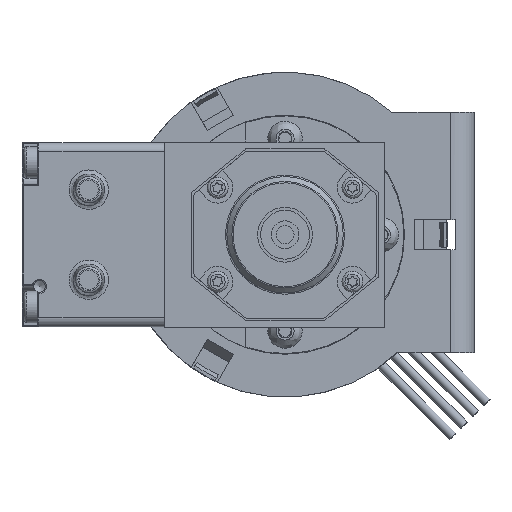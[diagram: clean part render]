
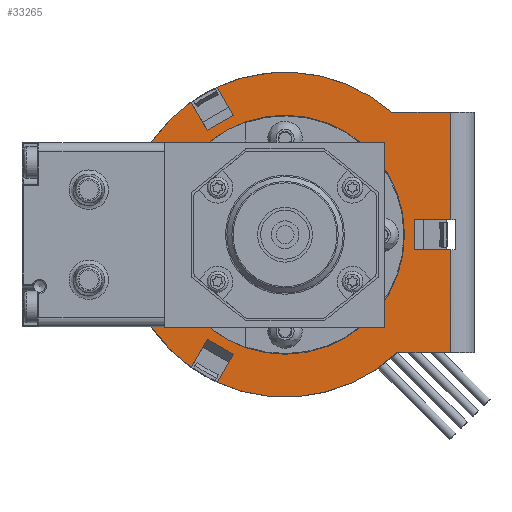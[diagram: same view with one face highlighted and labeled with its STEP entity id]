
A CAD part, left-side view. The second image highlights one B-rep face of the part: STEP entity #33265.
In plain terms, the highlighted planar face has unit normal (-1, 0, 0).
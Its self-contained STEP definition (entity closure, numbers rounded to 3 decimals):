
#427 = VERTEX_POINT ( 'NONE', #16229 ) ;
#474 = VECTOR ( 'NONE', #24153, 1000. ) ;
#526 = CARTESIAN_POINT ( 'NONE',  ( 8.5, 11.277, 9.182 ) ) ;
#1149 = DIRECTION ( 'NONE',  ( 0., -0.5, 0.866 ) ) ;
#1308 = CARTESIAN_POINT ( 'NONE',  ( 8.5, 15.607, 6.682 ) ) ;
#1335 = EDGE_CURVE ( 'NONE', #9406, #2469, #12406, .T. ) ;
#1656 = VERTEX_POINT ( 'NONE', #2628 ) ;
#1771 = DIRECTION ( 'NONE',  ( 0., -1., 0. ) ) ;
#1966 = VECTOR ( 'NONE', #2187, 1000. ) ;
#2187 = DIRECTION ( 'NONE',  ( 0., -0.866, 0.5 ) ) ;
#2469 = VERTEX_POINT ( 'NONE', #8167 ) ;
#2628 = CARTESIAN_POINT ( 'NONE',  ( 8.5, -27.5, -12.85 ) ) ;
#3134 = VECTOR ( 'NONE', #39065, 1000. ) ;
#3162 = CIRCLE ( 'NONE', #13836, 27. ) ;
#4207 = LINE ( 'NONE', #29564, #21664 ) ;
#4405 = VERTEX_POINT ( 'NONE', #18772 ) ;
#5282 = ORIENTED_EDGE ( 'NONE', *, *, #38427, .F. ) ;
#6025 = DIRECTION ( 'NONE',  ( 0., 1., 0. ) ) ;
#7100 = CARTESIAN_POINT ( 'NONE',  ( 8.5, 8.585, 4.52 ) ) ;
#7429 = CARTESIAN_POINT ( 'NONE',  ( 8.5, 0., -15.35 ) ) ;
#8082 = ORIENTED_EDGE ( 'NONE', *, *, #35931, .F. ) ;
#8167 = CARTESIAN_POINT ( 'NONE',  ( 8.5, 15.607, -37.382 ) ) ;
#8564 = VECTOR ( 'NONE', #13370, 1000. ) ;
#8674 = EDGE_CURVE ( 'NONE', #12868, #1656, #27506, .T. ) ;
#9195 = CARTESIAN_POINT ( 'NONE',  ( 8.5, 0., -17.85 ) ) ;
#9235 = VECTOR ( 'NONE', #33965, 1000. ) ;
#9406 = VERTEX_POINT ( 'NONE', #46567 ) ;
#10155 = ORIENTED_EDGE ( 'NONE', *, *, #35666, .F. ) ;
#10373 = LINE ( 'NONE', #30202, #9235 ) ;
#10758 = DIRECTION ( 'NONE',  ( 0., -0.5, -0.866 ) ) ;
#11101 = DIRECTION ( 'NONE',  ( 0., 1., 0. ) ) ;
#11787 = CIRCLE ( 'NONE', #34196, 19.85 ) ;
#12183 = VECTOR ( 'NONE', #1149, 1000. ) ;
#12406 = LINE ( 'NONE', #26555, #32320 ) ;
#12762 = VERTEX_POINT ( 'NONE', #47386 ) ;
#12868 = VERTEX_POINT ( 'NONE', #45093 ) ;
#13098 = PLANE ( 'NONE',  #27378 ) ;
#13370 = DIRECTION ( 'NONE',  ( 0., 0.866, 0.5 ) ) ;
#13551 = DIRECTION ( 'NONE',  ( 0., 1., 0. ) ) ;
#13836 = AXIS2_PLACEMENT_3D ( 'NONE', #41402, #18925, #45207 ) ;
#13867 = CIRCLE ( 'NONE', #30668, 27. ) ;
#14136 = EDGE_CURVE ( 'NONE', #4405, #47827, #46137, .T. ) ;
#14500 = DIRECTION ( 'NONE',  ( 0., 0., -1. ) ) ;
#14554 = CARTESIAN_POINT ( 'NONE',  ( 8.5, -27.5, 11.65 ) ) ;
#15441 = CARTESIAN_POINT ( 'NONE',  ( 8.5, 11.277, -39.882 ) ) ;
#15948 = CARTESIAN_POINT ( 'NONE',  ( 8.5, 0., -15.35 ) ) ;
#16229 = CARTESIAN_POINT ( 'NONE',  ( 8.5, 11.277, -39.882 ) ) ;
#16351 = VERTEX_POINT ( 'NONE', #7100 ) ;
#16488 = ORIENTED_EDGE ( 'NONE', *, *, #43800, .F. ) ;
#16759 = EDGE_CURVE ( 'NONE', #29847, #427, #35985, .T. ) ;
#17777 = FACE_BOUND ( 'NONE', #41650, .T. ) ;
#17890 = DIRECTION ( 'NONE',  ( 0., -1., 0. ) ) ;
#18549 = VERTEX_POINT ( 'NONE', #31437 ) ;
#18772 = CARTESIAN_POINT ( 'NONE',  ( 8.5, -27.5, -17.85 ) ) ;
#18925 = DIRECTION ( 'NONE',  ( 1., 0., 0. ) ) ;
#19212 = CARTESIAN_POINT ( 'NONE',  ( 8.5, -18.555, -34.964 ) ) ;
#19468 = ORIENTED_EDGE ( 'NONE', *, *, #28847, .F. ) ;
#19750 = DIRECTION ( 'NONE',  ( 0., -1., 0. ) ) ;
#20147 = LINE ( 'NONE', #39210, #474 ) ;
#20445 = VERTEX_POINT ( 'NONE', #34117 ) ;
#20474 = VERTEX_POINT ( 'NONE', #1308 ) ;
#20971 = DIRECTION ( 'NONE',  ( 0., 0., -1. ) ) ;
#21032 = LINE ( 'NONE', #15441, #12183 ) ;
#21460 = ORIENTED_EDGE ( 'NONE', *, *, #34020, .F. ) ;
#21664 = VECTOR ( 'NONE', #44553, 1000. ) ;
#23391 = CARTESIAN_POINT ( 'NONE',  ( 8.5, -27.5, 11.65 ) ) ;
#23973 = DIRECTION ( 'NONE',  ( 1., 0., 0. ) ) ;
#24153 = DIRECTION ( 'NONE',  ( 0., 0., -1. ) ) ;
#25738 = EDGE_LOOP ( 'NONE', ( #43671, #5282, #41540, #16488, #31286, #10155, #42784, #45690, #44643, #39522, #43840, #8082, #47057, #32671, #21460, #29764 ) ) ;
#26060 = EDGE_CURVE ( 'NONE', #427, #34446, #21032, .T. ) ;
#26555 = CARTESIAN_POINT ( 'NONE',  ( 8.5, 12.915, -32.72 ) ) ;
#26823 = EDGE_CURVE ( 'NONE', #2469, #20474, #13867, .T. ) ;
#27378 = AXIS2_PLACEMENT_3D ( 'NONE', #43303, #28349, #6025 ) ;
#27506 = LINE ( 'NONE', #23391, #46291 ) ;
#27515 = EDGE_CURVE ( 'NONE', #1656, #32602, #35477, .T. ) ;
#27864 = AXIS2_PLACEMENT_3D ( 'NONE', #15948, #42231, #19750 ) ;
#28149 = CARTESIAN_POINT ( 'NONE',  ( 8.5, 8.585, -35.22 ) ) ;
#28180 = CARTESIAN_POINT ( 'NONE',  ( 8.5, 12.915, 2.02 ) ) ;
#28349 = DIRECTION ( 'NONE',  ( 1., 0., 0. ) ) ;
#28847 = EDGE_CURVE ( 'NONE', #18549, #18549, #11787, .T. ) ;
#29327 = EDGE_CURVE ( 'NONE', #29344, #47442, #3162, .T. ) ;
#29344 = VERTEX_POINT ( 'NONE', #526 ) ;
#29564 = CARTESIAN_POINT ( 'NONE',  ( 8.5, 0., -34.964 ) ) ;
#29764 = ORIENTED_EDGE ( 'NONE', *, *, #27515, .F. ) ;
#29847 = VERTEX_POINT ( 'NONE', #19212 ) ;
#30202 = CARTESIAN_POINT ( 'NONE',  ( 8.5, 8.585, 4.52 ) ) ;
#30505 = CARTESIAN_POINT ( 'NONE',  ( 8.5, -27.5, -34.964 ) ) ;
#30668 = AXIS2_PLACEMENT_3D ( 'NONE', #46449, #23973, #1771 ) ;
#31005 = VECTOR ( 'NONE', #10758, 1000. ) ;
#31286 = ORIENTED_EDGE ( 'NONE', *, *, #36719, .F. ) ;
#31437 = CARTESIAN_POINT ( 'NONE',  ( 8.5, 19.85, -15.35 ) ) ;
#31600 = LINE ( 'NONE', #28180, #1966 ) ;
#32320 = VECTOR ( 'NONE', #45425, 1000. ) ;
#32602 = VERTEX_POINT ( 'NONE', #48084 ) ;
#32671 = ORIENTED_EDGE ( 'NONE', *, *, #43232, .F. ) ;
#33265 = ADVANCED_FACE ( 'NONE', ( #35338, #17777 ), #13098, .F. ) ;
#33504 = DIRECTION ( 'NONE',  ( -1., 0., 0. ) ) ;
#33827 = EDGE_CURVE ( 'NONE', #34446, #9406, #46002, .T. ) ;
#33965 = DIRECTION ( 'NONE',  ( 0., 0.5, 0.866 ) ) ;
#34020 = EDGE_CURVE ( 'NONE', #32602, #12762, #20147, .T. ) ;
#34063 = CARTESIAN_POINT ( 'NONE',  ( 8.5, -17.703, 5.036 ) ) ;
#34117 = CARTESIAN_POINT ( 'NONE',  ( 8.5, 12.915, 2.02 ) ) ;
#34196 = AXIS2_PLACEMENT_3D ( 'NONE', #7429, #33504, #11101 ) ;
#34446 = VERTEX_POINT ( 'NONE', #28149 ) ;
#35338 = FACE_OUTER_BOUND ( 'NONE', #25738, .T. ) ;
#35477 = LINE ( 'NONE', #35995, #36653 ) ;
#35666 = EDGE_CURVE ( 'NONE', #20474, #20445, #39832, .T. ) ;
#35804 = CARTESIAN_POINT ( 'NONE',  ( 8.5, 8.585, -35.22 ) ) ;
#35931 = EDGE_CURVE ( 'NONE', #47827, #29847, #4207, .T. ) ;
#35985 = CIRCLE ( 'NONE', #27864, 27. ) ;
#35995 = CARTESIAN_POINT ( 'NONE',  ( 8.5, 0., -12.85 ) ) ;
#36653 = VECTOR ( 'NONE', #13551, 1000. ) ;
#36719 = EDGE_CURVE ( 'NONE', #20445, #16351, #31600, .T. ) ;
#36891 = CARTESIAN_POINT ( 'NONE',  ( 8.5, 15.607, 6.682 ) ) ;
#37255 = VECTOR ( 'NONE', #14500, 1000. ) ;
#38427 = EDGE_CURVE ( 'NONE', #47442, #12868, #39090, .T. ) ;
#39065 = DIRECTION ( 'NONE',  ( 0., -1., 0. ) ) ;
#39090 = LINE ( 'NONE', #40345, #41459 ) ;
#39210 = CARTESIAN_POINT ( 'NONE',  ( 8.5, -21.5, 11.65 ) ) ;
#39522 = ORIENTED_EDGE ( 'NONE', *, *, #26060, .F. ) ;
#39832 = LINE ( 'NONE', #36891, #31005 ) ;
#40345 = CARTESIAN_POINT ( 'NONE',  ( 8.5, 0., 5.036 ) ) ;
#41402 = CARTESIAN_POINT ( 'NONE',  ( 8.5, 0., -15.35 ) ) ;
#41459 = VECTOR ( 'NONE', #17890, 1000. ) ;
#41540 = ORIENTED_EDGE ( 'NONE', *, *, #29327, .F. ) ;
#41637 = LINE ( 'NONE', #9195, #3134 ) ;
#41650 = EDGE_LOOP ( 'NONE', ( #19468 ) ) ;
#42231 = DIRECTION ( 'NONE',  ( 1., 0., 0. ) ) ;
#42784 = ORIENTED_EDGE ( 'NONE', *, *, #26823, .F. ) ;
#43232 = EDGE_CURVE ( 'NONE', #12762, #4405, #41637, .T. ) ;
#43303 = CARTESIAN_POINT ( 'NONE',  ( 8.5, 0., 11.65 ) ) ;
#43671 = ORIENTED_EDGE ( 'NONE', *, *, #8674, .F. ) ;
#43800 = EDGE_CURVE ( 'NONE', #16351, #29344, #10373, .T. ) ;
#43840 = ORIENTED_EDGE ( 'NONE', *, *, #16759, .F. ) ;
#44553 = DIRECTION ( 'NONE',  ( 0., 1., 0. ) ) ;
#44643 = ORIENTED_EDGE ( 'NONE', *, *, #33827, .F. ) ;
#45093 = CARTESIAN_POINT ( 'NONE',  ( 8.5, -27.5, 5.036 ) ) ;
#45207 = DIRECTION ( 'NONE',  ( 0., -1., 0. ) ) ;
#45425 = DIRECTION ( 'NONE',  ( 0., 0.5, -0.866 ) ) ;
#45690 = ORIENTED_EDGE ( 'NONE', *, *, #1335, .F. ) ;
#46002 = LINE ( 'NONE', #35804, #8564 ) ;
#46137 = LINE ( 'NONE', #14554, #37255 ) ;
#46291 = VECTOR ( 'NONE', #20971, 1000. ) ;
#46449 = CARTESIAN_POINT ( 'NONE',  ( 8.5, 0., -15.35 ) ) ;
#46567 = CARTESIAN_POINT ( 'NONE',  ( 8.5, 12.915, -32.72 ) ) ;
#47057 = ORIENTED_EDGE ( 'NONE', *, *, #14136, .F. ) ;
#47386 = CARTESIAN_POINT ( 'NONE',  ( 8.5, -21.5, -17.85 ) ) ;
#47442 = VERTEX_POINT ( 'NONE', #34063 ) ;
#47827 = VERTEX_POINT ( 'NONE', #30505 ) ;
#48084 = CARTESIAN_POINT ( 'NONE',  ( 8.5, -21.5, -12.85 ) ) ;
